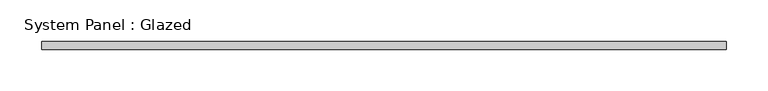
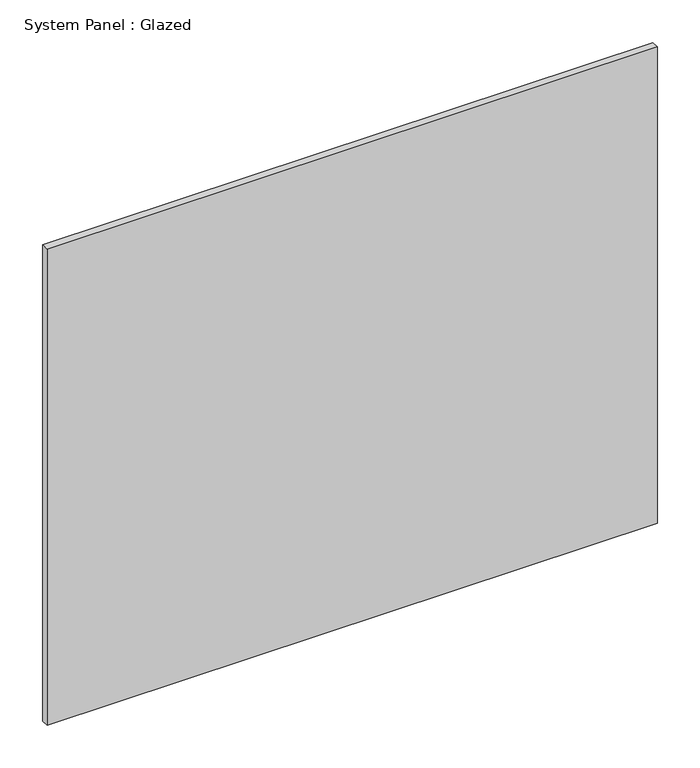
"""IFC4 building model written with IfcOpenShell, lengths in millimetres: plate geometry, System Panel : Glazed."""

from ifc_helpers import new_model, si_unit, origin, origin_with_axes, place, context, project, spatial, polyline, outline, extrude, source, transform, mapped, element, save


def system_panel_glazed_d3d69ba9(model_context):
    return source(origin(), model_context, "Body", "SweptSolid", [
        extrude(outline(polyline([(412.5, -5.0), (-412.5, -5.0), (-412.5, 5.0), (412.5, 5.0), (412.5, -5.0)])), origin_with_axes(), (0.0, 0.0, 1.0), 680.0),
    ])


if __name__ == "__main__":
    model = new_model("IFC4")
    model_context = context("Model", 3, world=origin())
    ifc_project = project(units=[si_unit("LENGTHUNIT", "METRE", prefix="MILLI")], contexts=[model_context])
    site = spatial("IfcSite", under=ifc_project)
    building = spatial("IfcBuilding", under=site)
    placement = place(None, origin())
    system_panel_glazed_shape = system_panel_glazed_d3d69ba9(model_context)
    element("IfcPlate", 1, ObjectType="System Panel : Glazed", at=placement, inside=building, context=model_context, shape_type="MappedRepresentation", body=[
        mapped(system_panel_glazed_shape, transform((0.0, 0.0, 0.0), x_axis=(1.0, 0.0, 0.0), y_axis=(0.0, 1.0, 0.0), z_axis=(0.0, 0.0, 1.0))),
    ])
    save(model, "model.ifc")
